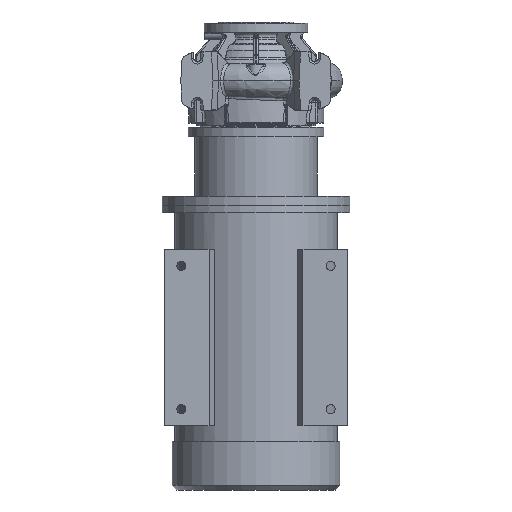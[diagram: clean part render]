
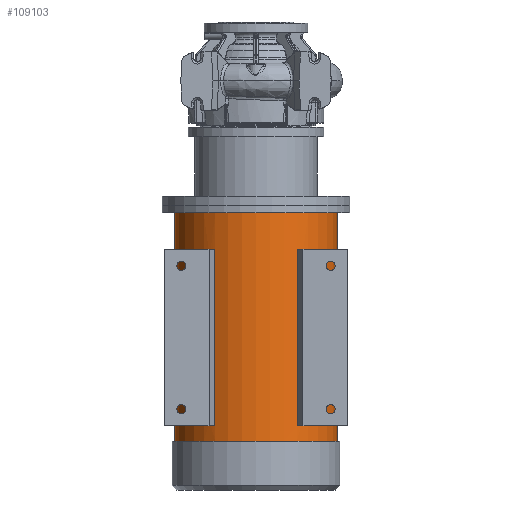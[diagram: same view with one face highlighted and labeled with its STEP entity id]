
A CAD part, front view. The second image highlights one B-rep face of the part: STEP entity #109103.
In plain terms, the highlighted cylindrical face has radius 173.5 mm (diameter 347 mm), a partial arc.
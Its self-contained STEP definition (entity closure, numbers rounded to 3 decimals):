
#397 = AXIS2_PLACEMENT_3D ( 'NONE', #63752, #81233, #10826 ) ;
#516 = VERTEX_POINT ( 'NONE', #6373 ) ;
#743 = CIRCLE ( 'NONE', #99996, 173.5 ) ;
#4990 = CIRCLE ( 'NONE', #105010, 173.5 ) ;
#5134 = ORIENTED_EDGE ( 'NONE', *, *, #24276, .T. ) ;
#5540 = CARTESIAN_POINT ( 'NONE',  ( -173.5, 0., -280.8 ) ) ;
#5821 = LINE ( 'NONE', #50565, #95648 ) ;
#6373 = CARTESIAN_POINT ( 'NONE',  ( -173.5, 0., -766.8 ) ) ;
#7075 = EDGE_CURVE ( 'NONE', #60031, #55852, #55650, .T. ) ;
#8095 = AXIS2_PLACEMENT_3D ( 'NONE', #91919, #66065, #56978 ) ;
#8810 = CARTESIAN_POINT ( 'NONE',  ( 0., 0., -733.8 ) ) ;
#9139 = CARTESIAN_POINT ( 'NONE',  ( 87.271, -149.953, -733.8 ) ) ;
#9181 = DIRECTION ( 'NONE',  ( 0., 0., 1. ) ) ;
#9502 = DIRECTION ( 'NONE',  ( -1., 0., 0. ) ) ;
#10296 = CARTESIAN_POINT ( 'NONE',  ( -100.73, -141.265, -358.8 ) ) ;
#10826 = DIRECTION ( 'NONE',  ( 1., 0., 0. ) ) ;
#10994 = AXIS2_PLACEMENT_3D ( 'NONE', #103343, #51247, #34058 ) ;
#12421 = VECTOR ( 'NONE', #81237, 1000. ) ;
#13663 = EDGE_LOOP ( 'NONE', ( #64211, #60437, #22418, #93365 ) ) ;
#15996 = CIRCLE ( 'NONE', #93999, 173.5 ) ;
#17036 = EDGE_LOOP ( 'NONE', ( #52199, #45261, #5134, #67985 ) ) ;
#17882 = AXIS2_PLACEMENT_3D ( 'NONE', #36139, #71136, #9502 ) ;
#17921 = CYLINDRICAL_SURFACE ( 'NONE', #17882, 173.5 ) ;
#20787 = CARTESIAN_POINT ( 'NONE',  ( 0., 0., -766.8 ) ) ;
#22418 = ORIENTED_EDGE ( 'NONE', *, *, #27337, .F. ) ;
#22834 = CARTESIAN_POINT ( 'NONE',  ( -87.271, -149.953, -358.8 ) ) ;
#24022 = CARTESIAN_POINT ( 'NONE',  ( 100.73, -141.265, -733.8 ) ) ;
#24276 = EDGE_CURVE ( 'NONE', #92515, #61682, #743, .T. ) ;
#24702 = CARTESIAN_POINT ( 'NONE',  ( -100.73, -141.265, -733.8 ) ) ;
#25386 = VERTEX_POINT ( 'NONE', #5540 ) ;
#26697 = DIRECTION ( 'NONE',  ( -1., 0., 0. ) ) ;
#27092 = DIRECTION ( 'NONE',  ( 0., 0., -1. ) ) ;
#27337 = EDGE_CURVE ( 'NONE', #103144, #85048, #51715, .T. ) ;
#27429 = CIRCLE ( 'NONE', #397, 173.5 ) ;
#28713 = EDGE_CURVE ( 'NONE', #25386, #516, #75834, .T. ) ;
#29821 = LINE ( 'NONE', #55391, #65246 ) ;
#29989 = CARTESIAN_POINT ( 'NONE',  ( 87.271, -149.953, -358.8 ) ) ;
#30374 = VERTEX_POINT ( 'NONE', #81079 ) ;
#31213 = EDGE_CURVE ( 'NONE', #104789, #103144, #112135, .T. ) ;
#31271 = ORIENTED_EDGE ( 'NONE', *, *, #105500, .F. ) ;
#33443 = DIRECTION ( 'NONE',  ( -1., 0., 0. ) ) ;
#33938 = EDGE_CURVE ( 'NONE', #30374, #85048, #27429, .T. ) ;
#34058 = DIRECTION ( 'NONE',  ( 1., 0., 0. ) ) ;
#35412 = EDGE_CURVE ( 'NONE', #91188, #92515, #29821, .T. ) ;
#35764 = EDGE_LOOP ( 'NONE', ( #103361, #96705, #43551, #31271 ) ) ;
#36139 = CARTESIAN_POINT ( 'NONE',  ( 0., 0., -870.8 ) ) ;
#37964 = VERTEX_POINT ( 'NONE', #24022 ) ;
#42256 = CARTESIAN_POINT ( 'NONE',  ( 0., 0., -358.8 ) ) ;
#43551 = ORIENTED_EDGE ( 'NONE', *, *, #28713, .T. ) ;
#45261 = ORIENTED_EDGE ( 'NONE', *, *, #35412, .T. ) ;
#47708 = CIRCLE ( 'NONE', #8095, 173.5 ) ;
#50565 = CARTESIAN_POINT ( 'NONE',  ( 100.73, -141.265, -870.8 ) ) ;
#51247 = DIRECTION ( 'NONE',  ( 0., 0., -1. ) ) ;
#51679 = DIRECTION ( 'NONE',  ( 0., 0., -1. ) ) ;
#51715 = LINE ( 'NONE', #55267, #73448 ) ;
#52199 = ORIENTED_EDGE ( 'NONE', *, *, #77423, .F. ) ;
#55267 = CARTESIAN_POINT ( 'NONE',  ( -100.73, -141.265, -870.8 ) ) ;
#55391 = CARTESIAN_POINT ( 'NONE',  ( 87.271, -149.953, -870.8 ) ) ;
#55650 = LINE ( 'NONE', #85883, #84168 ) ;
#55852 = VERTEX_POINT ( 'NONE', #65418 ) ;
#56978 = DIRECTION ( 'NONE',  ( -1., 0., 0. ) ) ;
#60031 = VERTEX_POINT ( 'NONE', #79527 ) ;
#60437 = ORIENTED_EDGE ( 'NONE', *, *, #33938, .T. ) ;
#61682 = VERTEX_POINT ( 'NONE', #106473 ) ;
#63752 = CARTESIAN_POINT ( 'NONE',  ( 0., 0., -733.8 ) ) ;
#64211 = ORIENTED_EDGE ( 'NONE', *, *, #112330, .F. ) ;
#65246 = VECTOR ( 'NONE', #107143, 1000. ) ;
#65418 = CARTESIAN_POINT ( 'NONE',  ( 173.5, 0., -766.8 ) ) ;
#66065 = DIRECTION ( 'NONE',  ( 0., 0., -1. ) ) ;
#67985 = ORIENTED_EDGE ( 'NONE', *, *, #91500, .T. ) ;
#70838 = CARTESIAN_POINT ( 'NONE',  ( -173.5, 0., -870.8 ) ) ;
#71136 = DIRECTION ( 'NONE',  ( 0., 0., -1. ) ) ;
#72452 = FACE_BOUND ( 'NONE', #17036, .T. ) ;
#73448 = VECTOR ( 'NONE', #90236, 1000. ) ;
#75202 = FACE_OUTER_BOUND ( 'NONE', #35764, .T. ) ;
#75834 = LINE ( 'NONE', #70838, #92178 ) ;
#77423 = EDGE_CURVE ( 'NONE', #91188, #37964, #4990, .T. ) ;
#79527 = CARTESIAN_POINT ( 'NONE',  ( 173.5, 0., -280.8 ) ) ;
#81079 = CARTESIAN_POINT ( 'NONE',  ( -87.271, -149.953, -733.8 ) ) ;
#81233 = DIRECTION ( 'NONE',  ( 0., 0., -1. ) ) ;
#81237 = DIRECTION ( 'NONE',  ( 0., 0., 1. ) ) ;
#81686 = DIRECTION ( 'NONE',  ( 0., 0., -1. ) ) ;
#81903 = LINE ( 'NONE', #89611, #12421 ) ;
#83377 = EDGE_CURVE ( 'NONE', #60031, #25386, #47708, .T. ) ;
#84168 = VECTOR ( 'NONE', #51679, 1000. ) ;
#85048 = VERTEX_POINT ( 'NONE', #24702 ) ;
#85883 = CARTESIAN_POINT ( 'NONE',  ( 173.5, 0., -870.8 ) ) ;
#89611 = CARTESIAN_POINT ( 'NONE',  ( -87.271, -149.953, -870.8 ) ) ;
#90236 = DIRECTION ( 'NONE',  ( 0., 0., -1. ) ) ;
#91188 = VERTEX_POINT ( 'NONE', #9139 ) ;
#91500 = EDGE_CURVE ( 'NONE', #61682, #37964, #5821, .T. ) ;
#91919 = CARTESIAN_POINT ( 'NONE',  ( 0., 0., -280.8 ) ) ;
#92178 = VECTOR ( 'NONE', #27092, 1000. ) ;
#92515 = VERTEX_POINT ( 'NONE', #29989 ) ;
#93365 = ORIENTED_EDGE ( 'NONE', *, *, #31213, .F. ) ;
#93999 = AXIS2_PLACEMENT_3D ( 'NONE', #20787, #81686, #98422 ) ;
#95648 = VECTOR ( 'NONE', #102636, 1000. ) ;
#96705 = ORIENTED_EDGE ( 'NONE', *, *, #83377, .T. ) ;
#98422 = DIRECTION ( 'NONE',  ( -1., 0., 0. ) ) ;
#99996 = AXIS2_PLACEMENT_3D ( 'NONE', #42256, #103109, #33443 ) ;
#102636 = DIRECTION ( 'NONE',  ( 0., 0., -1. ) ) ;
#103109 = DIRECTION ( 'NONE',  ( 0., 0., 1. ) ) ;
#103144 = VERTEX_POINT ( 'NONE', #10296 ) ;
#103343 = CARTESIAN_POINT ( 'NONE',  ( 0., 0., -358.8 ) ) ;
#103361 = ORIENTED_EDGE ( 'NONE', *, *, #7075, .F. ) ;
#104789 = VERTEX_POINT ( 'NONE', #22834 ) ;
#105010 = AXIS2_PLACEMENT_3D ( 'NONE', #8810, #9181, #26697 ) ;
#105500 = EDGE_CURVE ( 'NONE', #55852, #516, #15996, .T. ) ;
#106473 = CARTESIAN_POINT ( 'NONE',  ( 100.73, -141.265, -358.8 ) ) ;
#106519 = FACE_BOUND ( 'NONE', #13663, .T. ) ;
#107143 = DIRECTION ( 'NONE',  ( 0., 0., 1. ) ) ;
#109103 = ADVANCED_FACE ( 'NONE', ( #75202, #72452, #106519 ), #17921, .T. ) ;
#112135 = CIRCLE ( 'NONE', #10994, 173.5 ) ;
#112330 = EDGE_CURVE ( 'NONE', #30374, #104789, #81903, .T. ) ;
